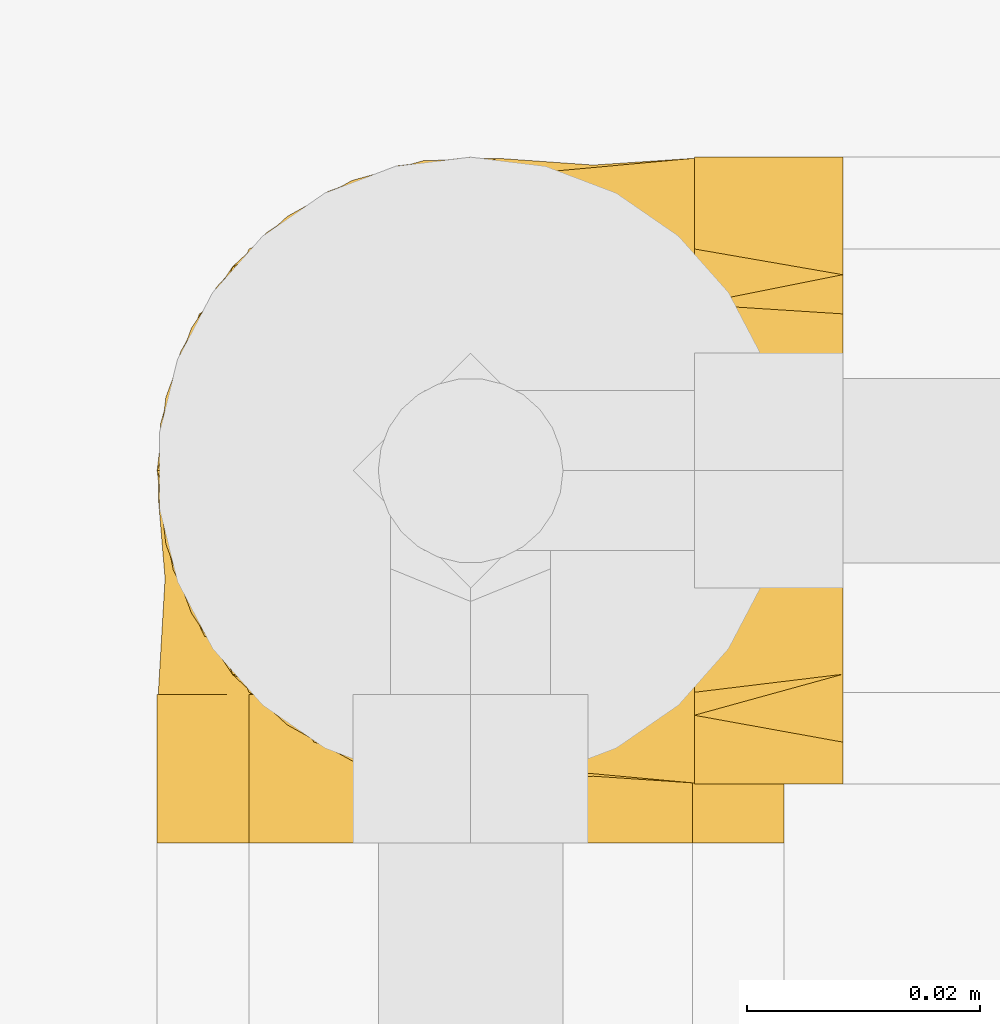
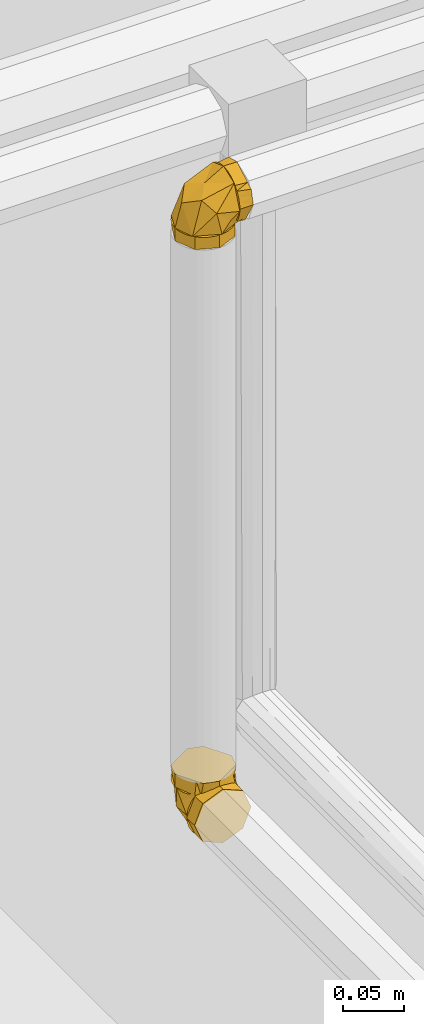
# One storey, part 332 of 652: 2 coverings.
"""IFC2X3 building model written with IfcOpenShell, lengths in millimetres."""

from ifc_helpers import new_model, entity, si_unit, converted_unit, direction, frame, origin, place, context, subcontext, project, spatial, face_set, surface_model, material, type_object, element, save


model = new_model("IFC2X3")

# Units and contexts
model_context = context("Model", 3, precision=0.01, world=frame((0.0, 0.0, 308426.39999999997)), true_north=direction((6.123233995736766e-17, 1.0)))
plan_context = context("Plan", 3, precision=0.01, world=frame((0.0, 0.0, 308426.39999999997)), true_north=direction((6.123233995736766e-17, 1.0)))
body_context = subcontext(model_context, "Body", "Model", "MODEL_VIEW")
ifc_project = project(units=[si_unit("LENGTHUNIT", "METRE", prefix="MILLI"), si_unit("AREAUNIT", "SQUARE_METRE"), si_unit("VOLUMEUNIT", "CUBIC_METRE"), converted_unit("PLANEANGLEUNIT", "DEGREE", entity("IfcPlaneAngleMeasure", 0.017453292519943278), si_unit("PLANEANGLEUNIT", "RADIAN"), dimensions=[0, 0, 0, 0, 0, 0, 0])], contexts=[model_context, plan_context])

# Site, building, storey
site_placement = place(None, origin())
site = spatial("IfcSite", under=ifc_project, at=site_placement, Name="Default", CompositionType="ELEMENT")
building_placement = place(site_placement, origin())
building = spatial("IfcBuilding", under=site, at=building_placement, CompositionType="ELEMENT")
storey_placement = place(building_placement, frame((0.0, 0.0, 1730.6999999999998)))
storey = spatial("IfcBuildingStorey", under=building, at=storey_placement, Name="EG_Produktion_FFB", CompositionType="ELEMENT", Elevation=1730.6999999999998)

# Coverings
ifc_material = material(Name="Dämmung - Armaflex-Schlauch")
covering_type = type_object("IfcCoveringType", Name="Rohrdämmung außen:Armaflex-Schlauch", PredefinedType="INSULATION")
covering_1_placement = place(storey_placement, frame((25681.46722776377, 60868.0162499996, 3271.467227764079)))
element("IfcCovering", 1, at=covering_1_placement, inside=storey, type_object=covering_type, material=ifc_material, Name="Rohrdämmung außen:Armaflex-Schlauch", ObjectType="Rohrdämmung außen:Armaflex-Schlauch", PredefinedType="INSULATION", context=body_context, shape_type="SurfaceModel", body=[
    surface_model("IfcFaceBasedSurfaceModel", [(9.65642195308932, 12.766250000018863, 47.75027223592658), (5.678961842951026, 12.766250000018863, 42.7922342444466), (2.973980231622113, 12.766250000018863, 37.04024292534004), (1.6920879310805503, 12.766250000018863, 30.81456370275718), (1.9046594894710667, 12.766250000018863, 24.46183649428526), (3.5998591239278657, 12.766250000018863, 18.33577512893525), (6.683299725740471, 12.766250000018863, 12.777472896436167), (10.983298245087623, 12.766250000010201, 8.096410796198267), (16.26043484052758, 12.766250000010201, 4.553225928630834), (22.220883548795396, 12.766250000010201, 2.3451994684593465), (28.532772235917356, 12.766250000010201, 1.5952722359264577), (34.84466092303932, 12.766250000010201, 2.3451994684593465), (40.80510963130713, 12.766250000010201, 4.553225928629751), (46.08224622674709, 12.766250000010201, 8.096410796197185), (50.38224474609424, 12.766250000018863, 12.777472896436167), (53.46568534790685, 12.766250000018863, 18.335775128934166), (55.16088498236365, 12.766250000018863, 24.46183649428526), (55.37345654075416, 12.766250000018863, 30.81456370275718), (54.0915642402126, 12.766250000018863, 37.04024292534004), (51.38658262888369, 12.766250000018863, 42.79223424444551), (47.40912251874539, 12.766250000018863, 47.75027223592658), (51.38658262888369, 17.72428799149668, 47.75027223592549), (54.0915642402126, 23.47627931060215, 47.75027223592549), (55.37345654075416, 29.70195853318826, 47.75027223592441), (55.16088498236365, 36.05468574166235, 47.750272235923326), (53.46568534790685, 42.18074710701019, 47.750272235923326), (50.38224474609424, 47.73904933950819, 47.750272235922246), (46.08224622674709, 52.42011143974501, 47.750272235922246), (40.80510963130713, 55.96329630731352, 47.750272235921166), (34.84466092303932, 58.17132276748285, 47.750272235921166), (28.532772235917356, 58.921250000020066, 47.750272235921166), (22.220883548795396, 58.17132276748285, 47.750272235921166), (16.26043484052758, 55.96329630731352, 47.750272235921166), (10.983298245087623, 52.42011143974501, 47.750272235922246), (6.683299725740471, 47.73904933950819, 47.750272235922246), (3.5998591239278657, 42.18074710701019, 47.750272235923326), (1.9046594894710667, 36.05468574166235, 47.750272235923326), (1.6920879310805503, 29.70195853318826, 47.75027223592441), (2.973980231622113, 23.47627931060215, 47.75027223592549), (5.678961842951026, 17.72428799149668, 47.75027223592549), (2.276693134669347, 22.70890869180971, 39.069828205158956), (28.53322999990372, 35.842990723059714, 7.7787149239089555), (6.336910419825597, 12.76532959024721, 19.455327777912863), (3.599868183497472, 33.564060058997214, 26.950800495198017), (14.285262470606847, 43.18207763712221, 18.674561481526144), (28.53322999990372, 48.377109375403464, 29.486692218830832), (6.336910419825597, 41.061276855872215, 47.7501123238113), (42.7811975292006, 43.18207763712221, 18.674561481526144), (53.46659181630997, 33.564060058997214, 26.950800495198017), (54.7897668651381, 22.70890869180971, 39.069828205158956), (50.727224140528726, 41.061276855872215, 47.7501123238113), (50.727224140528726, 12.76532959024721, 19.455327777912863), (28.532772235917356, 0.0, 1.595272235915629), (33.29469446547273, 0.0, 3.567725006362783), (38.05661669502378, 0.0, 5.5401777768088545), (42.81853892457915, 0.0, 7.512630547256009), (47.5804611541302, 0.0, 9.485083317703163), (49.552913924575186, 0.0, 14.247005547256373), (51.5253666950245, 0.0, 19.008927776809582), (53.497819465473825, 0.0, 23.770850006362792), (55.47027223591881, 0.0, 28.532772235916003), (53.49781946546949, 0.0, 33.29469446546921), (51.5253666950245, 0.0, 38.05661669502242), (49.552913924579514, 0.0, 42.818538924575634), (47.5804611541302, 0.0, 47.58046115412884), (42.81853892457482, 0.0, 49.552913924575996), (38.05661669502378, 0.0, 51.52536669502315), (33.29469446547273, 0.0, 53.49781946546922), (28.532772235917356, 0.0, 55.470272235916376), (23.770850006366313, 0.0, 53.49781946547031), (19.008927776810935, 0.0, 51.52536669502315), (14.247005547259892, 0.0, 49.552913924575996), (9.485083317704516, 0.0, 47.58046115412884), (7.512630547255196, 0.0, 42.818538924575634), (5.540177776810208, 0.0, 38.05661669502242), (3.5677250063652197, 0.0, 33.29469446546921), (1.5952722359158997, 0.0, 28.532772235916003), (3.567725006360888, 0.0, 23.770850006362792), (5.540177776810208, 0.0, 19.008927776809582), (7.512630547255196, 0.0, 14.247005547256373), (9.485083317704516, 0.0, 9.485083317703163), (14.247005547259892, 0.0, 7.512630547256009), (19.008927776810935, 0.0, 5.5401777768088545), (23.770850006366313, 0.0, 3.5677250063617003), (28.532772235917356, 12.766250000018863, 1.5952722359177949), (23.77085000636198, 12.766250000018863, 3.567725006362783), (19.008927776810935, 12.766250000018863, 5.540177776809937), (14.24700554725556, 12.766250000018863, 7.512630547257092), (9.485083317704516, 12.766250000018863, 9.485083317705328), (7.095738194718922, 12.766250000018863, 15.253472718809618), (4.706393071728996, 12.766250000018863, 21.021862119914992), (1.5952722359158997, 12.766250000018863, 28.532772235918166), (3.5677250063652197, 12.766250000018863, 33.29469446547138), (5.540177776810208, 12.766250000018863, 38.05661669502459), (7.512630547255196, 12.766250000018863, 42.818538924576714), (9.485083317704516, 12.766250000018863, 47.58046115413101), (15.253472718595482, 12.766250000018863, 49.96980627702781), (21.021862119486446, 12.766250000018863, 52.359151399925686), (28.532772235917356, 12.766250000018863, 55.47027223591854), (33.29469446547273, 12.766250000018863, 53.49781946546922), (38.05661669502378, 12.766250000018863, 51.52536669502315), (42.81853892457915, 12.766250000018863, 49.552913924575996), (47.5804611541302, 12.766250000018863, 47.58046115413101), (49.96980627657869, 12.766250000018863, 41.81207175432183), (52.35915139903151, 12.766250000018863, 36.04368235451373), (55.47027223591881, 12.766250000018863, 28.532772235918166), (53.49781946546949, 12.766250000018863, 23.77085000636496), (51.5253666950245, 12.766250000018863, 19.00892777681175), (49.552913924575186, 12.766250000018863, 14.247005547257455), (47.5804611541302, 12.766250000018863, 9.485083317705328), (41.81207177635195, 12.766250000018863, 7.095738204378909), (36.0436823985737, 12.766250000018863, 4.706393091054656), (28.532772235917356, 58.92125000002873, 60.51652223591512), (22.700632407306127, 55.55406250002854, 60.51652223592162), (16.868492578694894, 52.186875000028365, 60.51652223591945), (11.036352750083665, 48.81968750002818, 60.516522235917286), (5.204212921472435, 45.452500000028, 60.51652223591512), (3.3997425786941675, 38.718125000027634, 60.51652223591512), (1.5952722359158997, 31.98375000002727, 60.51652223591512), (4.962459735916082, 26.151610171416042, 60.51652223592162), (8.329647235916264, 20.319470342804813, 60.51652223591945), (11.696834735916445, 14.487330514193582, 60.516522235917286), (15.064022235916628, 8.655190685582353, 60.51652223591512), (21.79839723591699, 6.850720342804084, 60.51652223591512), (28.532772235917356, 5.046250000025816, 60.51652223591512), (34.36491206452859, 8.413437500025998, 60.51652223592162), (40.197051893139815, 11.78062500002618, 60.51652223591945), (46.029191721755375, 15.147812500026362, 60.516522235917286), (51.86133155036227, 18.515000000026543, 60.51652223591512), (53.66580189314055, 25.24937500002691, 60.51652223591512), (55.47027223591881, 31.98375000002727, 60.51652223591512), (52.10308473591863, 37.815889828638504, 60.51652223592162), (48.73589723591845, 43.64802965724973, 60.51652223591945), (45.3687097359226, 49.48016948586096, 60.516522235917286), (42.00152223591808, 55.312309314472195, 60.51652223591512), (35.26714723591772, 57.11677965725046, 60.51652223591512), (28.532772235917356, 58.92125000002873, 47.75027223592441), (33.2946944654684, 56.94879722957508, 47.75027223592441), (38.05661669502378, 54.97634445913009, 47.75027223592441), (42.81853892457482, 53.0038916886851, 47.75027223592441), (47.5804611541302, 51.03143891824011, 47.75027223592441), (49.552913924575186, 46.2695166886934, 47.75027223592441), (51.5253666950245, 41.50759445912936, 47.75027223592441), (53.497819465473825, 36.745672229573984, 47.75027223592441), (55.47027223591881, 31.98375000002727, 47.75027223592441), (53.49781946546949, 27.221827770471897, 47.75027223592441), (51.5253666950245, 22.459905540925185, 47.75027223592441), (49.552913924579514, 17.697983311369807, 47.75027223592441), (47.5804611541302, 12.936061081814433, 47.75027223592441), (42.81853892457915, 10.963608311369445, 47.75027223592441), (38.05661669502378, 8.991155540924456, 47.75027223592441), (33.29469446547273, 7.018702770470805, 47.75027223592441), (28.532772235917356, 5.046250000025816, 47.75027223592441), (23.770850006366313, 7.018702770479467, 47.75027223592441), (19.008927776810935, 8.991155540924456, 47.75027223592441), (14.247005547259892, 10.963608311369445, 47.75027223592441), (9.485083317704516, 12.936061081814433, 47.75027223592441), (7.512630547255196, 17.697983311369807, 47.75027223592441), (5.540177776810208, 22.459905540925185, 47.75027223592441), (3.5677250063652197, 27.22182777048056, 47.75027223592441), (1.5952722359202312, 31.98375000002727, 47.75027223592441), (3.5677250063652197, 36.745672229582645, 47.75027223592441), (5.540177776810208, 41.50759445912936, 47.75027223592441), (7.512630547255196, 46.26951668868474, 47.75027223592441), (9.485083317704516, 51.03143891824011, 47.75027223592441), (14.24700554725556, 53.0038916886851, 47.75027223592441), (19.008927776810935, 54.97634445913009, 47.75027223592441), (23.77085000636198, 56.94879722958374, 47.75027223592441)], [face_set([[[0, 1, 2, 3, 4, 5, 6, 7, 8, 9, 10, 11, 12, 13, 14, 15, 16, 17, 18, 19]], [[20, 21, 22, 23, 24, 25, 26, 27, 28, 29, 30, 31, 32, 33, 34, 35, 36, 37, 38, 39]], [[0, 40, 3]], [[10, 7, 41]], [[42, 3, 43]], [[40, 43, 3]], [[37, 40, 0]], [[7, 43, 44]], [[45, 41, 44]], [[7, 44, 41]], [[33, 30, 45]], [[45, 44, 33]], [[43, 33, 44]], [[43, 37, 46]], [[43, 7, 42]], [[37, 43, 40]], [[46, 33, 43]], [[13, 10, 41]], [[27, 47, 45]], [[45, 30, 27]], [[48, 47, 27]], [[49, 48, 23]], [[48, 50, 23]], [[45, 47, 41]], [[20, 49, 23]], [[47, 48, 13]], [[17, 49, 20]], [[41, 47, 13]], [[48, 17, 51]], [[48, 27, 50]], [[17, 48, 49]], [[51, 13, 48]]]), face_set([[[52, 53, 54, 55, 56, 57, 58, 59, 60, 61, 62, 63, 64, 65, 66, 67, 68, 69, 70, 71, 72, 73, 74, 75, 76, 77, 78, 79, 80, 81, 82, 83]], [[84, 85, 86, 87, 88, 89, 90, 91, 92, 93, 94, 95, 96, 97, 98, 99, 100, 101, 102, 103, 104, 105, 106, 107, 108, 109, 110, 111]], [[111, 110, 109, 56, 55, 54, 53, 52, 84]], [[56, 109, 108, 107, 106, 105, 60, 59, 58, 57]], [[104, 103, 102, 64, 63, 62, 61, 60, 105]], [[64, 102, 101, 100, 99, 98, 68, 67, 66, 65]], [[97, 96, 95, 72, 71, 70, 69, 68, 98]], [[72, 95, 94, 93, 92, 91, 76, 75, 74, 73]], [[90, 89, 88, 80, 79, 78, 77, 76, 91]], [[80, 88, 87, 86, 85, 84, 52, 83, 82, 81]]]), face_set([[[112, 113, 114, 115, 116, 117, 118, 119, 120, 121, 122, 123, 124, 125, 126, 127, 128, 129, 130, 131, 132, 133, 134, 135]], [[136, 137, 138, 139, 140, 141, 142, 143, 144, 145, 146, 147, 148, 149, 150, 151, 152, 153, 154, 155, 156, 157, 158, 159, 160, 161, 162, 163, 164, 165, 166, 167]], [[155, 121, 156]], [[118, 159, 119]], [[159, 158, 119]], [[123, 154, 153]], [[153, 152, 124]], [[121, 155, 122]], [[120, 158, 157]], [[118, 160, 159]], [[158, 120, 119]], [[124, 123, 153]], [[157, 156, 121]], [[155, 154, 122]], [[123, 122, 154]], [[120, 157, 121]], [[163, 115, 164]], [[112, 167, 113]], [[167, 166, 113]], [[117, 162, 161]], [[161, 160, 118]], [[115, 163, 116]], [[114, 166, 165]], [[112, 136, 167]], [[166, 114, 113]], [[118, 117, 161]], [[165, 164, 115]], [[163, 162, 116]], [[117, 116, 162]], [[114, 165, 115]], [[139, 133, 140]], [[130, 143, 131]], [[143, 142, 131]], [[135, 138, 137]], [[137, 136, 112]], [[133, 139, 134]], [[132, 142, 141]], [[130, 144, 143]], [[142, 132, 131]], [[112, 135, 137]], [[141, 140, 133]], [[139, 138, 134]], [[135, 134, 138]], [[132, 141, 133]], [[147, 127, 148]], [[124, 151, 125]], [[151, 150, 125]], [[129, 146, 145]], [[145, 144, 130]], [[127, 147, 128]], [[126, 150, 149]], [[124, 152, 151]], [[150, 126, 125]], [[130, 129, 145]], [[149, 148, 127]], [[147, 146, 128]], [[129, 128, 146]], [[126, 149, 127]]])]),
])
covering_2_placement = place(storey_placement, frame((25681.467227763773, 60871.46722776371, 3868.0162499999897)))
element("IfcCovering", 2, at=covering_2_placement, inside=storey, type_object=covering_type, material=ifc_material, Name="Rohrdämmung außen:Armaflex-Schlauch", ObjectType="Rohrdämmung außen:Armaflex-Schlauch", PredefinedType="INSULATION", context=body_context, shape_type="SurfaceModel", body=[
    surface_model("IfcFaceBasedSurfaceModel", [(47.750272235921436, 9.65642195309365, 12.766250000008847), (42.792234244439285, 5.678961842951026, 12.766250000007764), (37.040242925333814, 2.973980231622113, 12.766250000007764), (30.81456370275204, 1.6920879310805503, 12.76625000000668), (24.461836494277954, 1.904659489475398, 12.766250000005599), (18.335775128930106, 3.599859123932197, 12.766250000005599), (12.777472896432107, 6.683299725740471, 12.766250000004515), (8.096410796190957, 10.983298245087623, 12.766250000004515), (4.553225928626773, 16.26043484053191, 12.766250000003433), (2.3451994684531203, 22.220883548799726, 12.766250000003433), (1.5952722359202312, 28.532772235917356, 12.766250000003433), (2.3451994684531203, 34.844660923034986, 12.766250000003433), (4.553225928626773, 40.8051096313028, 12.766250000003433), (8.096410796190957, 46.08224622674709, 12.766250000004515), (12.777472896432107, 50.38224474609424, 12.766250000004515), (18.335775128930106, 53.465685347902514, 12.766250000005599), (24.461836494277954, 55.16088498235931, 12.766250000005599), (30.81456370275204, 55.37345654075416, 12.76625000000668), (37.040242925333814, 54.0915642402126, 12.766250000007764), (42.792234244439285, 51.38658262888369, 12.766250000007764), (47.750272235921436, 47.409122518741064, 12.766250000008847), (47.750272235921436, 5.678961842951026, 17.72428799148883), (47.750272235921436, 2.973980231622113, 23.47627931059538), (47.750272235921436, 1.6920879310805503, 29.701958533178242), (47.7502722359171, 1.904659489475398, 36.05468574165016), (47.7502722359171, 3.599859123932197, 42.18074710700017), (47.7502722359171, 6.683299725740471, 47.73904933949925), (47.7502722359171, 10.983298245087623, 52.420111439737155), (47.7502722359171, 16.26043484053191, 55.96329630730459), (47.7502722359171, 22.220883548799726, 58.17132276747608), (47.7502722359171, 28.532772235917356, 58.92125000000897), (47.7502722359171, 34.844660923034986, 58.17132276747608), (47.7502722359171, 40.8051096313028, 55.963296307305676), (47.7502722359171, 46.08224622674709, 52.42011143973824), (47.7502722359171, 50.38224474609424, 47.73904933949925), (47.7502722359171, 53.465685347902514, 42.18074710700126), (47.7502722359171, 55.16088498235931, 36.05468574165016), (47.750272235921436, 55.37345654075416, 29.701958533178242), (47.750272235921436, 54.0915642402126, 23.47627931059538), (47.750272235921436, 51.38658262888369, 17.724287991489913), (39.069796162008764, 2.277572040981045, 22.70922912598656), (7.778682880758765, 28.531783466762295, 35.843892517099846), (26.95193117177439, 3.5984216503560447, 33.56554321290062), (19.454714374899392, 6.337789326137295, 12.766231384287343), (29.48666017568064, 28.531783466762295, 48.37684844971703), (18.675692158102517, 14.286141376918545, 43.18414215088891), (47.75066164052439, 6.337789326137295, 41.06101593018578), (18.675692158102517, 42.782076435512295, 43.18414215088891), (39.069796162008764, 54.790645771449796, 22.70922912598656), (26.95193117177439, 53.465145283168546, 33.56554321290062), (47.75066164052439, 50.72577760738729, 41.06101593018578), (19.454714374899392, 50.72577760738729, 12.766231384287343), (1.5952722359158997, 28.532772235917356, 0.0), (3.567725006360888, 33.29469446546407, 0.0), (5.540177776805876, 38.05661669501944, 0.0), (7.512630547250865, 42.818538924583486, 0.0), (9.485083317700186, 47.5804611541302, 0.0), (14.247005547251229, 49.55291392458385, 0.0), (19.008927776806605, 51.525366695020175, 0.0), (23.77085000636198, 53.49781946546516, 0.0), (28.532772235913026, 55.47027223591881, 0.0), (33.29469446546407, 53.497819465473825, 0.0), (38.05661669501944, 51.525366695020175, 0.0), (42.81853892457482, 49.552913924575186, 0.0), (47.580461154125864, 47.5804611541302, 0.0), (49.55291392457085, 42.818538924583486, 0.0), (51.525366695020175, 38.05661669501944, 0.0), (53.49781946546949, 33.29469446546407, 0.0), (55.47027223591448, 28.532772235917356, 0.0), (53.49781946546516, 23.770850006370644, 0.0), (51.525366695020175, 19.008927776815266, 0.0), (49.552913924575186, 14.247005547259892, 0.0), (47.580461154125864, 9.485083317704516, 0.0), (42.81853892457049, 7.512630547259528, 0.0), (38.05661669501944, 5.54017777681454, 0.0), (33.2946944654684, 3.567725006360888, 0.0), (28.532772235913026, 1.5952722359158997, 0.0), (23.770850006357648, 3.567725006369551, 0.0), (19.008927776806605, 5.54017777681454, 0.0), (14.247005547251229, 7.512630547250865, 0.0), (9.485083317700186, 9.485083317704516, 0.0), (7.512630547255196, 14.247005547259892, 0.0), (5.540177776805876, 19.008927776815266, 0.0), (3.567725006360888, 23.77085000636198, 0.0), (1.5952722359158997, 28.532772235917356, 12.766250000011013), (3.567725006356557, 23.770850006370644, 12.766250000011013), (5.540177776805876, 19.008927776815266, 12.76625000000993), (7.512630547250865, 14.247005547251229, 12.76625000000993), (9.485083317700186, 9.485083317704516, 12.76625000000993), (15.253472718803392, 7.095738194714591, 12.766250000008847), (21.02186211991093, 4.706393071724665, 12.766250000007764), (28.532772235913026, 1.5952722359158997, 12.76625000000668), (33.2946944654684, 3.567725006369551, 12.766250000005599), (38.05661669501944, 5.54017777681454, 12.766250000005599), (42.81853892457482, 7.512630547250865, 12.766250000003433), (47.580461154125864, 9.485083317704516, 12.766250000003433), (49.96980627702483, 15.253472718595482, 12.766250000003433), (52.35915139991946, 21.021862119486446, 12.766250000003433), (55.47027223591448, 28.532772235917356, 12.76625000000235), (53.49781946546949, 33.29469446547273, 12.76625000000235), (51.525366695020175, 38.05661669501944, 12.766250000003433), (49.552913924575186, 42.81853892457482, 12.766250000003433), (47.580461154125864, 47.5804611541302, 12.766250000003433), (41.81207175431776, 49.96980627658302, 12.766250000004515), (36.04368235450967, 52.359151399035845, 12.766250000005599), (28.532772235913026, 55.47027223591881, 12.76625000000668), (23.77085000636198, 53.49781946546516, 12.766250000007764), (19.008927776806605, 51.525366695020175, 12.766250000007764), (14.247005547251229, 49.552913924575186, 12.766250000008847), (9.485083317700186, 47.5804611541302, 12.76625000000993), (7.095738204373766, 41.81207177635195, 12.76625000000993), (4.706393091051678, 36.0436823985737, 12.766250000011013), (60.516522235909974, 28.532772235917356, 58.92125000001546), (60.51652223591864, 22.700632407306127, 55.554062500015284), (60.51652223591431, 16.868492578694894, 52.1868750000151), (60.516522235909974, 11.036352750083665, 48.819687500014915), (60.516522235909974, 5.204212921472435, 45.45250000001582), (60.516522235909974, 3.3997425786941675, 38.718125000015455), (60.516522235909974, 1.5952722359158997, 31.98375000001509), (60.51652223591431, 4.962459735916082, 26.151610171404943), (60.51652223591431, 8.329647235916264, 20.319470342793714), (60.51652223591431, 11.696834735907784, 14.487330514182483), (60.516522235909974, 15.064022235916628, 8.655190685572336), (60.516522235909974, 21.79839723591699, 6.850720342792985), (60.516522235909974, 28.532772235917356, 5.046250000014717), (60.51652223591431, 34.36491206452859, 8.413437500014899), (60.51652223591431, 40.197051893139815, 11.78062500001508), (60.51652223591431, 46.02919172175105, 15.147812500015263), (60.516522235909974, 51.86133155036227, 18.515000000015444), (60.516522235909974, 53.66580189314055, 25.24937500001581), (60.516522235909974, 55.47027223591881, 31.98375000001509), (60.51652223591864, 52.10308473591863, 37.81588982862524), (60.51652223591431, 48.73589723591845, 43.64802965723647), (60.51652223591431, 45.368709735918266, 49.480169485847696), (60.516522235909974, 42.00152223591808, 55.31230931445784), (60.516522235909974, 35.26714723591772, 57.116779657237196), (47.750272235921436, 28.532772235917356, 58.92125000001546), (47.750272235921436, 33.29469446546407, 56.94879722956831), (47.750272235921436, 38.05661669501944, 54.97634445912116), (47.750272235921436, 42.81853892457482, 53.003891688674), (47.750272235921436, 47.5804611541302, 51.03143891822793), (47.750272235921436, 49.55291392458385, 46.26951668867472), (47.750272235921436, 51.525366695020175, 41.50759445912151), (47.750272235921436, 53.49781946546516, 36.7456722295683), (47.750272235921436, 55.47027223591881, 31.98375000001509), (47.750272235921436, 53.497819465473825, 27.22182777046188), (47.750272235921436, 51.525366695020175, 22.45990554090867), (47.750272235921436, 49.552913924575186, 17.69798331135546), (47.750272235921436, 47.5804611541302, 12.93606108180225), (47.750272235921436, 42.81853892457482, 10.963608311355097), (47.750272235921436, 38.05661669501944, 8.991155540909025), (47.750272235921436, 33.29469446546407, 7.0187027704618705), (47.750272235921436, 28.532772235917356, 5.0462500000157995), (47.750272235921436, 23.770850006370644, 7.0187027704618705), (47.750272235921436, 19.008927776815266, 8.991155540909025), (47.75027223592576, 14.247005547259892, 10.963608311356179), (47.750272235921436, 9.485083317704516, 12.93606108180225), (47.750272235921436, 7.512630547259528, 17.69798331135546), (47.750272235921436, 5.54017777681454, 22.45990554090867), (47.750272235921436, 3.567725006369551, 27.22182777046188), (47.750272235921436, 1.5952722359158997, 31.98375000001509), (47.750272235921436, 3.567725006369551, 36.7456722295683), (47.750272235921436, 5.54017777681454, 41.50759445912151), (47.750272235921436, 7.512630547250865, 46.26951668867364), (47.750272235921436, 9.485083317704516, 51.03143891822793), (47.750272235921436, 14.247005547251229, 53.00389168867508), (47.750272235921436, 19.008927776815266, 54.97634445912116), (47.750272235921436, 23.77085000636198, 56.94879722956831)], [face_set([[[0, 1, 2, 3, 4, 5, 6, 7, 8, 9, 10, 11, 12, 13, 14, 15, 16, 17, 18, 19]], [[20, 21, 22, 23, 24, 25, 26, 27, 28, 29, 30, 31, 32, 33, 34, 35, 36, 37, 38, 39]], [[0, 40, 3]], [[10, 7, 41]], [[23, 42, 40]], [[42, 7, 43]], [[23, 40, 0]], [[3, 40, 42]], [[44, 41, 45]], [[7, 45, 41]], [[27, 30, 44]], [[44, 45, 27]], [[42, 27, 45]], [[42, 23, 46, 27]], [[7, 42, 45]], [[43, 3, 42]], [[13, 10, 41]], [[33, 47, 44]], [[44, 30, 33]], [[48, 49, 37]], [[49, 33, 50]], [[17, 49, 48]], [[44, 47, 41]], [[20, 48, 37]], [[47, 49, 13]], [[17, 48, 20]], [[41, 47, 13]], [[49, 17, 51]], [[33, 49, 47]], [[50, 37, 49]], [[51, 13, 49]]]), face_set([[[52, 53, 54, 55, 56, 57, 58, 59, 60, 61, 62, 63, 64, 65, 66, 67, 68, 69, 70, 71, 72, 73, 74, 75, 76, 77, 78, 79, 80, 81, 82, 83]], [[84, 85, 86, 87, 88, 89, 90, 91, 92, 93, 94, 95, 96, 97, 98, 99, 100, 101, 102, 103, 104, 105, 106, 107, 108, 109, 110, 111]], [[111, 110, 109, 56, 55, 54, 53, 52, 84]], [[56, 109, 108, 107, 106, 105, 60, 59, 58, 57]], [[104, 103, 102, 64, 63, 62, 61, 60, 105]], [[64, 102, 101, 100, 99, 98, 68, 67, 66, 65]], [[97, 96, 95, 72, 71, 70, 69, 68, 98]], [[72, 95, 94, 93, 92, 91, 76, 75, 74, 73]], [[90, 89, 88, 80, 79, 78, 77, 76, 91]], [[80, 88, 87, 86, 85, 84, 52, 83, 82, 81]]]), face_set([[[112, 113, 114, 115, 116, 117, 118, 119, 120, 121, 122, 123, 124, 125, 126, 127, 128, 129, 130, 131, 132, 133, 134, 135]], [[136, 137, 138, 139, 140, 141, 142, 143, 144, 145, 146, 147, 148, 149, 150, 151, 152, 153, 154, 155, 156, 157, 158, 159, 160, 161, 162, 163, 164, 165, 166, 167]], [[155, 121, 156]], [[118, 159, 119]], [[159, 158, 119]], [[123, 154, 153]], [[153, 152, 124]], [[121, 155, 122]], [[120, 158, 157]], [[118, 160, 159]], [[158, 120, 119]], [[124, 123, 153]], [[157, 156, 121]], [[155, 154, 122]], [[123, 122, 154]], [[120, 157, 121]], [[163, 115, 164]], [[112, 167, 113]], [[167, 166, 113]], [[117, 162, 161]], [[161, 160, 118]], [[115, 163, 116]], [[114, 166, 165]], [[112, 136, 167]], [[166, 114, 113]], [[118, 117, 161]], [[165, 164, 115]], [[163, 162, 116]], [[117, 116, 162]], [[114, 165, 115]], [[139, 133, 140]], [[130, 143, 131]], [[143, 142, 131]], [[135, 138, 137]], [[137, 136, 112]], [[133, 139, 134]], [[132, 142, 141]], [[130, 144, 143]], [[142, 132, 131]], [[112, 135, 137]], [[141, 140, 133]], [[139, 138, 134]], [[135, 134, 138]], [[132, 141, 133]], [[147, 127, 148]], [[124, 151, 125]], [[151, 150, 125]], [[129, 146, 145]], [[145, 144, 130]], [[127, 147, 128]], [[126, 150, 149]], [[124, 152, 151]], [[150, 126, 125]], [[130, 129, 145]], [[149, 148, 127]], [[147, 146, 128]], [[129, 128, 146]], [[126, 149, 127]]])]),
])

save(model, "model.ifc")
